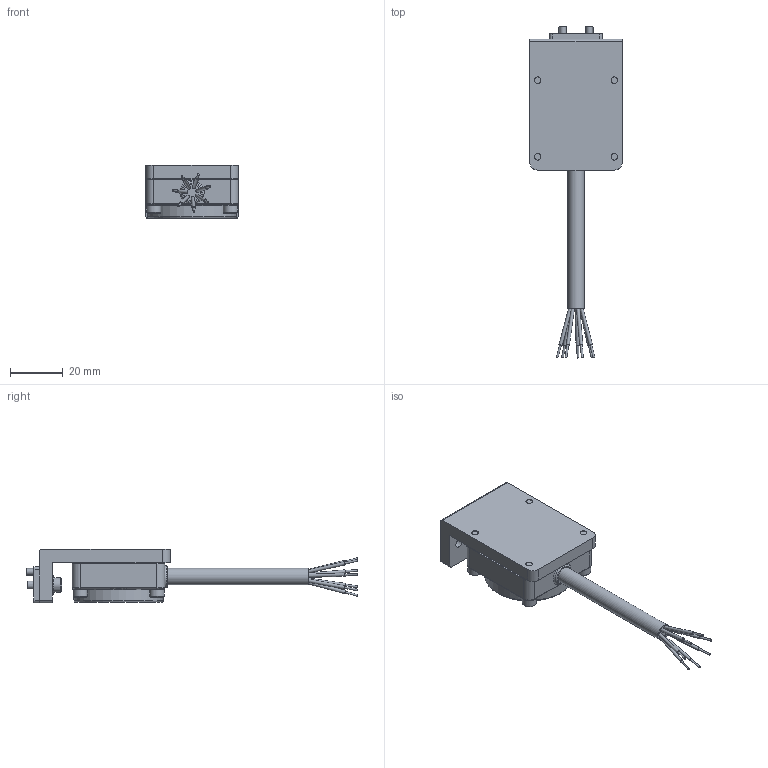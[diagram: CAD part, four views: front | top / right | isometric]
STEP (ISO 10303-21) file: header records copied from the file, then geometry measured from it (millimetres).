
FILE_DESCRIPTION(('STEP AP214'),'1');
FILE_NAME('KHB-1RS-NN4,NP4_ver1.stp','2026-04-23T23:22:34',(' '),(' '),'Spatial InterOp 3D',' ',' ');
FILE_SCHEMA(('AUTOMOTIVE_DESIGN { 1 0 10303 214 1 1 1 1 }'));
Length unit declared in the file: millimetre
Products named in the file (1): KHB-1RS-NN4,NP4_ver1
Bounding box: 35 x 125.57 x 20.2 mm (x, y, z)
Volume: 29510.7 mm3; surface area: 13020.7 mm2
Topology: 1 solids, 7 shells, 280 faces, 635 edges, 420 vertices
Faces by surface type: plane 128, cylinder 89, bspline 21, torus 21, cone 21
Full cylindrical faces by diameter (mm): 0.7 x7, 1.2 x7, 2.5 x10, 3 x4, 3.2 x2, 3.3 x4, 3.5 x4, 5 x4, 5.41 x6, 5.5 x4, 6.3 x1, 7 x2
Entity records: 9858 total; most frequent: CARTESIAN_POINT 1713, DIRECTION 1275, ORIENTED_EDGE 1042, AXIS2_PLACEMENT_3D 530, EDGE_CURVE 521, EDGE_LOOP 429, VERTEX_POINT 386, FACE_OUTER_BOUND 339
